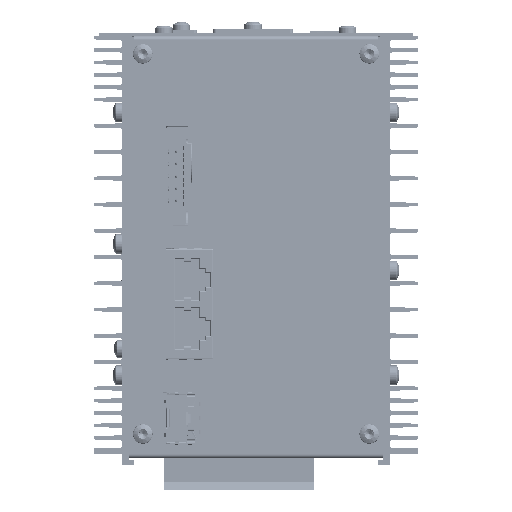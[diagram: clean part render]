
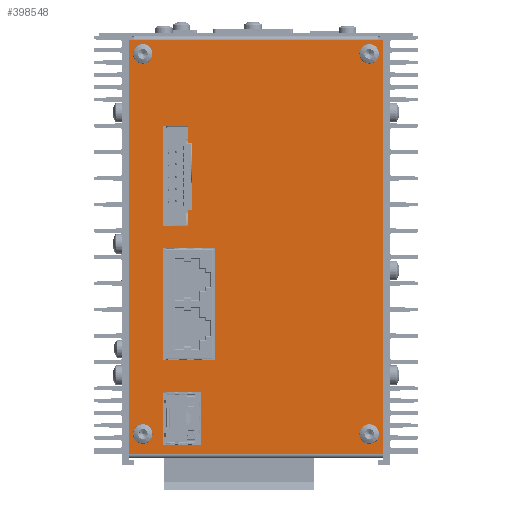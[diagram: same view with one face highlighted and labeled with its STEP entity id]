
A CAD part, front view. The second image highlights one B-rep face of the part: STEP entity #398548.
In plain terms, the highlighted planar face has unit normal (0, -1, 0) as drawn and (1, 0, 0) by its records, which use the part's own axes.
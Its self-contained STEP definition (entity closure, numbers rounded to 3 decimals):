
#28048=PLANE('',#121145);
#37990=CIRCLE('',#121146,2.05);
#37991=CIRCLE('',#121147,2.05);
#37992=CIRCLE('',#121148,2.05);
#37993=CIRCLE('',#121149,2.05);
#37994=CIRCLE('',#121150,2.05);
#37995=CIRCLE('',#121151,2.05);
#37996=CIRCLE('',#121152,2.05);
#37997=CIRCLE('',#121153,2.05);
#66674=VECTOR('',#190796,1.);
#66676=VECTOR('',#190799,1.);
#66680=VECTOR('',#190810,1.);
#66720=VECTOR('',#190935,1.);
#66721=VECTOR('',#190936,1.);
#66722=VECTOR('',#190937,1.);
#66723=VECTOR('',#190954,1.);
#66724=VECTOR('',#190955,1.);
#66725=VECTOR('',#190956,1.);
#66726=VECTOR('',#190957,1.);
#66727=VECTOR('',#190958,1.);
#66728=VECTOR('',#190959,1.);
#66729=VECTOR('',#190960,1.);
#66730=VECTOR('',#190961,1.);
#66731=VECTOR('',#190962,1.);
#66732=VECTOR('',#190963,1.);
#66733=VECTOR('',#190964,1.);
#66734=VECTOR('',#190965,1.);
#66735=VECTOR('',#190966,1.);
#66736=VECTOR('',#190967,1.);
#66737=VECTOR('',#190968,1.);
#66738=VECTOR('',#190969,1.);
#95620=LINE('',#571488,#66674);
#95622=LINE('',#571492,#66676);
#95626=LINE('',#571504,#66680);
#95666=LINE('',#571628,#66720);
#95667=LINE('',#571630,#66721);
#95668=LINE('',#571632,#66722);
#95669=LINE('',#571649,#66723);
#95670=LINE('',#571652,#66724);
#95671=LINE('',#571654,#66725);
#95672=LINE('',#571656,#66726);
#95673=LINE('',#571657,#66727);
#95674=LINE('',#571660,#66728);
#95675=LINE('',#571662,#66729);
#95676=LINE('',#571664,#66730);
#95677=LINE('',#571665,#66731);
#95678=LINE('',#571668,#66732);
#95679=LINE('',#571670,#66733);
#95680=LINE('',#571672,#66734);
#95681=LINE('',#571674,#66735);
#95682=LINE('',#571676,#66736);
#95683=LINE('',#571678,#66737);
#95684=LINE('',#571680,#66738);
#121145=AXIS2_PLACEMENT_3D('',#571627,#190934,$);
#121146=AXIS2_PLACEMENT_3D('',#571633,#190938,#190939);
#121147=AXIS2_PLACEMENT_3D('',#571636,#190940,#190941);
#121148=AXIS2_PLACEMENT_3D('',#571637,#190942,#190943);
#121149=AXIS2_PLACEMENT_3D('',#571640,#190944,#190945);
#121150=AXIS2_PLACEMENT_3D('',#571641,#190946,#190947);
#121151=AXIS2_PLACEMENT_3D('',#571644,#190948,#190949);
#121152=AXIS2_PLACEMENT_3D('',#571645,#190950,#190951);
#121153=AXIS2_PLACEMENT_3D('',#571648,#190952,#190953);
#190796=DIRECTION('',(0.,0.,-1.));
#190799=DIRECTION('',(0.,0.,-1.));
#190810=DIRECTION('',(0.,0.,1.));
#190934=DIRECTION('',(1.,0.,0.));
#190935=DIRECTION('',(0.,1.,0.));
#190936=DIRECTION('',(0.,0.,-1.));
#190937=DIRECTION('',(0.,-1.,0.));
#190938=DIRECTION('',(1.,0.,0.));
#190939=DIRECTION('',(0.,-2.05,0.));
#190940=DIRECTION('',(1.,0.,0.));
#190941=DIRECTION('',(0.,2.05,0.));
#190942=DIRECTION('',(1.,0.,0.));
#190943=DIRECTION('',(0.,-2.05,0.));
#190944=DIRECTION('',(1.,0.,0.));
#190945=DIRECTION('',(0.,2.05,0.));
#190946=DIRECTION('',(1.,0.,0.));
#190947=DIRECTION('',(0.,-2.05,0.));
#190948=DIRECTION('',(1.,0.,0.));
#190949=DIRECTION('',(0.,2.05,0.));
#190950=DIRECTION('',(1.,0.,0.));
#190951=DIRECTION('',(0.,-2.05,0.));
#190952=DIRECTION('',(1.,0.,0.));
#190953=DIRECTION('',(0.,2.05,0.));
#190954=DIRECTION('',(0.,0.,1.));
#190955=DIRECTION('',(0.,1.,0.));
#190956=DIRECTION('',(0.,0.,-1.));
#190957=DIRECTION('',(0.,-1.,0.));
#190958=DIRECTION('',(0.,0.,-1.));
#190959=DIRECTION('',(0.,-1.,0.));
#190960=DIRECTION('',(0.,0.,1.));
#190961=DIRECTION('',(0.,1.,0.));
#190962=DIRECTION('',(0.,0.,1.));
#190963=DIRECTION('',(0.,1.,0.));
#190964=DIRECTION('',(0.,0.,1.));
#190965=DIRECTION('',(0.,1.,0.));
#190966=DIRECTION('',(0.,0.,-1.));
#190967=DIRECTION('',(0.,1.,0.));
#190968=DIRECTION('',(0.,0.,-1.));
#190969=DIRECTION('',(0.,-1.,0.));
#224492=VERTEX_POINT('',#571487);
#224493=VERTEX_POINT('',#571489);
#224494=VERTEX_POINT('',#571493);
#224495=VERTEX_POINT('',#571494);
#224532=VERTEX_POINT('',#571629);
#224533=VERTEX_POINT('',#571631);
#224534=VERTEX_POINT('',#571634);
#224535=VERTEX_POINT('',#571635);
#224536=VERTEX_POINT('',#571638);
#224537=VERTEX_POINT('',#571639);
#224538=VERTEX_POINT('',#571642);
#224539=VERTEX_POINT('',#571643);
#224540=VERTEX_POINT('',#571646);
#224541=VERTEX_POINT('',#571647);
#224542=VERTEX_POINT('',#571650);
#224543=VERTEX_POINT('',#571651);
#224544=VERTEX_POINT('',#571653);
#224545=VERTEX_POINT('',#571655);
#224546=VERTEX_POINT('',#571658);
#224547=VERTEX_POINT('',#571659);
#224548=VERTEX_POINT('',#571661);
#224549=VERTEX_POINT('',#571663);
#224550=VERTEX_POINT('',#571666);
#224551=VERTEX_POINT('',#571667);
#224552=VERTEX_POINT('',#571669);
#224553=VERTEX_POINT('',#571671);
#224554=VERTEX_POINT('',#571673);
#224555=VERTEX_POINT('',#571675);
#224556=VERTEX_POINT('',#571677);
#224557=VERTEX_POINT('',#571679);
#267603=EDGE_CURVE('',#224493,#224492,#95620,.T.);
#267605=EDGE_CURVE('',#224494,#224495,#95622,.T.);
#267611=EDGE_CURVE('',#224493,#224495,#95626,.T.);
#267673=EDGE_CURVE('',#224492,#224532,#95666,.T.);
#267674=EDGE_CURVE('',#224533,#224532,#95667,.T.);
#267675=EDGE_CURVE('',#224533,#224494,#95668,.T.);
#267676=EDGE_CURVE('',#224534,#224535,#37990,.T.);
#267677=EDGE_CURVE('',#224535,#224534,#37991,.T.);
#267678=EDGE_CURVE('',#224536,#224537,#37992,.T.);
#267679=EDGE_CURVE('',#224537,#224536,#37993,.T.);
#267680=EDGE_CURVE('',#224538,#224539,#37994,.T.);
#267681=EDGE_CURVE('',#224539,#224538,#37995,.T.);
#267682=EDGE_CURVE('',#224540,#224541,#37996,.T.);
#267683=EDGE_CURVE('',#224541,#224540,#37997,.T.);
#267684=EDGE_CURVE('',#224542,#224543,#95669,.T.);
#267685=EDGE_CURVE('',#224543,#224544,#95670,.T.);
#267686=EDGE_CURVE('',#224544,#224545,#95671,.T.);
#267687=EDGE_CURVE('',#224545,#224542,#95672,.T.);
#267688=EDGE_CURVE('',#224546,#224547,#95673,.T.);
#267689=EDGE_CURVE('',#224547,#224548,#95674,.T.);
#267690=EDGE_CURVE('',#224548,#224549,#95675,.T.);
#267691=EDGE_CURVE('',#224549,#224546,#95676,.T.);
#267692=EDGE_CURVE('',#224550,#224551,#95677,.T.);
#267693=EDGE_CURVE('',#224551,#224552,#95678,.T.);
#267694=EDGE_CURVE('',#224552,#224553,#95679,.T.);
#267695=EDGE_CURVE('',#224553,#224554,#95680,.T.);
#267696=EDGE_CURVE('',#224554,#224555,#95681,.T.);
#267697=EDGE_CURVE('',#224555,#224556,#95682,.T.);
#267698=EDGE_CURVE('',#224556,#224557,#95683,.T.);
#267699=EDGE_CURVE('',#224557,#224550,#95684,.T.);
#349272=ORIENTED_EDGE('',*,*,#267611,.F.);
#349273=ORIENTED_EDGE('',*,*,#267603,.T.);
#349274=ORIENTED_EDGE('',*,*,#267673,.T.);
#349275=ORIENTED_EDGE('',*,*,#267674,.F.);
#349276=ORIENTED_EDGE('',*,*,#267675,.T.);
#349277=ORIENTED_EDGE('',*,*,#267605,.T.);
#349278=ORIENTED_EDGE('',*,*,#267676,.F.);
#349279=ORIENTED_EDGE('',*,*,#267677,.F.);
#349280=ORIENTED_EDGE('',*,*,#267678,.F.);
#349281=ORIENTED_EDGE('',*,*,#267679,.F.);
#349282=ORIENTED_EDGE('',*,*,#267680,.F.);
#349283=ORIENTED_EDGE('',*,*,#267681,.F.);
#349284=ORIENTED_EDGE('',*,*,#267682,.F.);
#349285=ORIENTED_EDGE('',*,*,#267683,.F.);
#349286=ORIENTED_EDGE('',*,*,#267684,.T.);
#349287=ORIENTED_EDGE('',*,*,#267685,.T.);
#349288=ORIENTED_EDGE('',*,*,#267686,.T.);
#349289=ORIENTED_EDGE('',*,*,#267687,.T.);
#349290=ORIENTED_EDGE('',*,*,#267688,.T.);
#349291=ORIENTED_EDGE('',*,*,#267689,.T.);
#349292=ORIENTED_EDGE('',*,*,#267690,.T.);
#349293=ORIENTED_EDGE('',*,*,#267691,.T.);
#349294=ORIENTED_EDGE('',*,*,#267692,.T.);
#349295=ORIENTED_EDGE('',*,*,#267693,.T.);
#349296=ORIENTED_EDGE('',*,*,#267694,.T.);
#349297=ORIENTED_EDGE('',*,*,#267695,.T.);
#349298=ORIENTED_EDGE('',*,*,#267696,.T.);
#349299=ORIENTED_EDGE('',*,*,#267697,.T.);
#349300=ORIENTED_EDGE('',*,*,#267698,.T.);
#349301=ORIENTED_EDGE('',*,*,#267699,.T.);
#367278=EDGE_LOOP('',(#349272,#349273,#349274,#349275,#349276,#349277));
#367279=EDGE_LOOP('',(#349278,#349279));
#367280=EDGE_LOOP('',(#349280,#349281));
#367281=EDGE_LOOP('',(#349282,#349283));
#367282=EDGE_LOOP('',(#349284,#349285));
#367283=EDGE_LOOP('',(#349286,#349287,#349288,#349289));
#367284=EDGE_LOOP('',(#349290,#349291,#349292,#349293));
#367285=EDGE_LOOP('',(#349294,#349295,#349296,#349297,#349298,#349299,#349300,
#349301));
#383805=FACE_BOUND('',#367278,.T.);
#383806=FACE_BOUND('',#367279,.T.);
#383807=FACE_BOUND('',#367280,.T.);
#383808=FACE_BOUND('',#367281,.T.);
#383809=FACE_BOUND('',#367282,.T.);
#383810=FACE_BOUND('',#367283,.T.);
#383811=FACE_BOUND('',#367284,.T.);
#383812=FACE_BOUND('',#367285,.T.);
#398548=ADVANCED_FACE('',(#383805,#383806,#383807,#383808,#383809,#383810,
#383811,#383812),#28048,.T.);
#571487=CARTESIAN_POINT('',(0.8,-119.5,-72.705));
#571488=CARTESIAN_POINT('',(0.8,-119.5,-71.305));
#571489=CARTESIAN_POINT('',(0.8,-119.5,-71.305));
#571492=CARTESIAN_POINT('',(0.8,-119.5,0.));
#571493=CARTESIAN_POINT('',(0.8,-119.5,0.));
#571494=CARTESIAN_POINT('',(0.8,-119.5,-1.4));
#571504=CARTESIAN_POINT('',(0.8,-119.5,-71.305));
#571627=CARTESIAN_POINT('',(0.8,0.,0.));
#571628=CARTESIAN_POINT('',(0.8,-119.5,-72.705));
#571629=CARTESIAN_POINT('',(0.8,-1.3,-72.705));
#571630=CARTESIAN_POINT('',(0.8,-1.3,0.));
#571631=CARTESIAN_POINT('',(0.8,-1.3,0.));
#571632=CARTESIAN_POINT('',(0.8,-1.3,0.));
#571633=CARTESIAN_POINT('',(0.8,-7.,-3.998));
#571634=CARTESIAN_POINT('',(0.8,-9.05,-3.998));
#571635=CARTESIAN_POINT('',(0.8,-4.95,-3.998));
#571636=CARTESIAN_POINT('',(0.8,-7.,-3.998));
#571637=CARTESIAN_POINT('',(0.8,-115.6,-3.998));
#571638=CARTESIAN_POINT('',(0.8,-117.65,-3.998));
#571639=CARTESIAN_POINT('',(0.8,-113.55,-3.998));
#571640=CARTESIAN_POINT('',(0.8,-115.6,-3.998));
#571641=CARTESIAN_POINT('',(0.8,-115.6,-68.705));
#571642=CARTESIAN_POINT('',(0.8,-117.65,-68.705));
#571643=CARTESIAN_POINT('',(0.8,-113.55,-68.705));
#571644=CARTESIAN_POINT('',(0.8,-115.6,-68.705));
#571645=CARTESIAN_POINT('',(0.8,-7.,-68.705));
#571646=CARTESIAN_POINT('',(0.8,-9.05,-68.705));
#571647=CARTESIAN_POINT('',(0.8,-4.95,-68.705));
#571648=CARTESIAN_POINT('',(0.8,-7.,-68.705));
#571649=CARTESIAN_POINT('',(0.8,-19.13,-62.905));
#571650=CARTESIAN_POINT('',(0.8,-19.13,-62.905));
#571651=CARTESIAN_POINT('',(0.8,-19.13,-52.106));
#571652=CARTESIAN_POINT('',(0.8,-19.13,-52.106));
#571653=CARTESIAN_POINT('',(0.8,-3.88,-52.106));
#571654=CARTESIAN_POINT('',(0.8,-3.88,-52.106));
#571655=CARTESIAN_POINT('',(0.8,-3.88,-62.905));
#571656=CARTESIAN_POINT('',(0.8,-3.88,-62.905));
#571657=CARTESIAN_POINT('',(0.8,-28.175,-48.17));
#571658=CARTESIAN_POINT('',(0.8,-28.175,-48.17));
#571659=CARTESIAN_POINT('',(0.8,-28.175,-62.905));
#571660=CARTESIAN_POINT('',(0.8,-28.175,-62.905));
#571661=CARTESIAN_POINT('',(0.8,-60.025,-62.905));
#571662=CARTESIAN_POINT('',(0.8,-60.025,-62.905));
#571663=CARTESIAN_POINT('',(0.8,-60.025,-48.17));
#571664=CARTESIAN_POINT('',(0.8,-60.025,-48.17));
#571665=CARTESIAN_POINT('',(0.8,-94.97,-62.905));
#571666=CARTESIAN_POINT('',(0.8,-94.97,-62.905));
#571667=CARTESIAN_POINT('',(0.8,-94.97,-55.905));
#571668=CARTESIAN_POINT('',(0.8,-94.97,-55.905));
#571669=CARTESIAN_POINT('',(0.8,-90.22,-55.905));
#571670=CARTESIAN_POINT('',(0.8,-90.22,-55.905));
#571671=CARTESIAN_POINT('',(0.8,-90.22,-54.555));
#571672=CARTESIAN_POINT('',(0.8,-90.22,-54.555));
#571673=CARTESIAN_POINT('',(0.8,-71.12,-54.555));
#571674=CARTESIAN_POINT('',(0.8,-71.12,-54.555));
#571675=CARTESIAN_POINT('',(0.8,-71.12,-55.905));
#571676=CARTESIAN_POINT('',(0.8,-71.12,-55.905));
#571677=CARTESIAN_POINT('',(0.8,-66.37,-55.905));
#571678=CARTESIAN_POINT('',(0.8,-66.37,-55.905));
#571679=CARTESIAN_POINT('',(0.8,-66.37,-62.905));
#571680=CARTESIAN_POINT('',(0.8,-66.37,-62.905));
